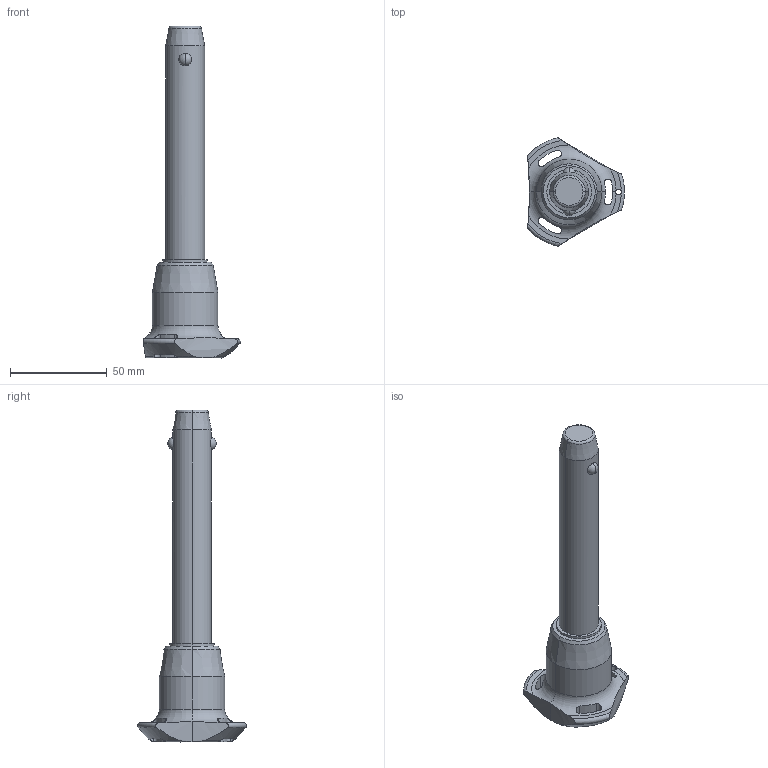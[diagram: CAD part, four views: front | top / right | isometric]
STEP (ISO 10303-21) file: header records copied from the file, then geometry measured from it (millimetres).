
FILE_DESCRIPTION (( 'STEP AP203' ), '1' );
FILE_NAME ('QR1724.M20-100-S.step', '2025-11-12T13:08:23', ( '' ), ( '' ), 'SwSTEP 2.0', 'SolidWorks 2019', '' );
FILE_SCHEMA (( 'CONFIG_CONTROL_DESIGN' ));
Length unit declared in the file: millimetre
Products named in the file (1): QR1724.M20-100-S
Bounding box: 50.04 x 56.02 x 171.2 mm (x, y, z)
Volume: 85192.9 mm3; surface area: 17250.4 mm2
Topology: 1 solids, 1 shells, 65 faces, 176 edges, 111 vertices
Faces by surface type: cylinder 30, cone 14, torus 11, sphere 6, plane 4
Entity records: 2858 total; most frequent: CARTESIAN_POINT 1179, ORIENTED_EDGE 352, DIRECTION 329, EDGE_CURVE 176, AXIS2_PLACEMENT_3D 147, VERTEX_POINT 111, CIRCLE 81, EDGE_LOOP 71
